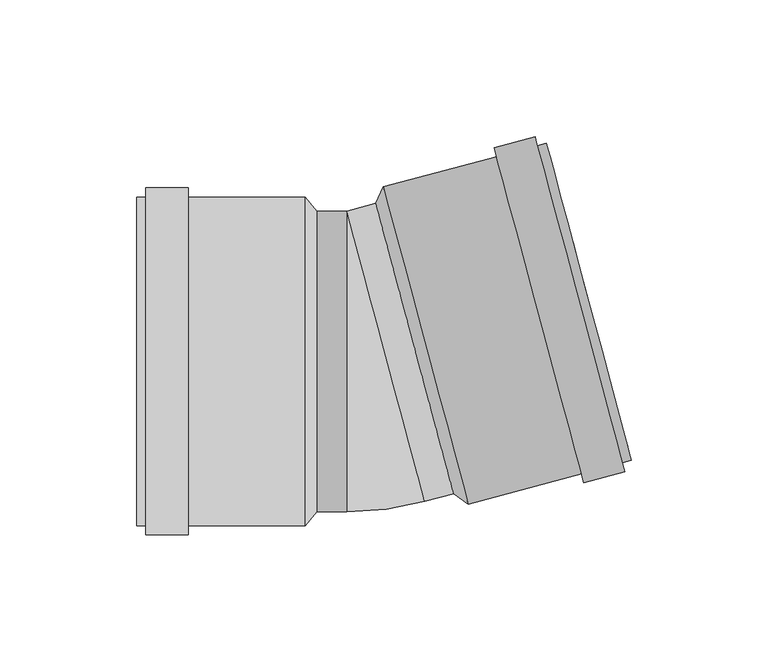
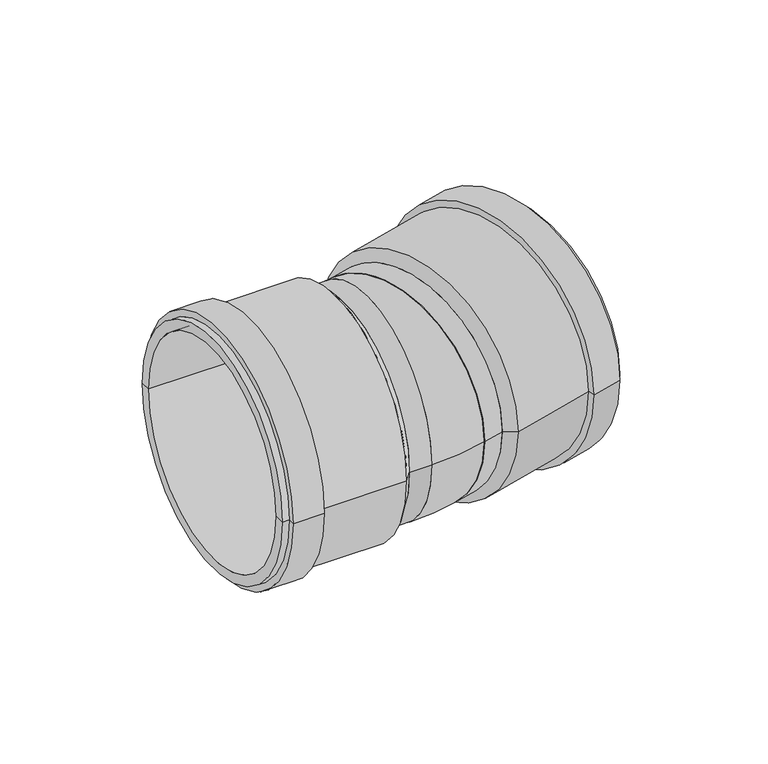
"""IFC4 building model written with IfcOpenShell, lengths in millimetres: pipe fitting geometry, pf_KGBD-2M : pf_KGBD-2M."""

from ifc_helpers import new_model, si_unit, point, frame, origin, origin_2d, place, context, project, spatial, polyline, circle_curve, ellipse_curve, trimmed, segment, composite_curve, outline, extrude, source, transform, mapped, element, save
from ifc_brep_helpers import plane_surface, cylinder_surface, revolved_surface, advanced_brep


def pipe_fitting_e47ee67b(model_context):
    return source(origin(), model_context, "Body", "SolidModel", [
        advanced_brep(
        [(31.8148975, -48.4154138, 0.0), (3.3448026, 57.8364271, 0.0), (6.0817139, 63.8496888, 0.0), (37.1917631, -52.2545955, 0.0), (17.57985, 4.7105066, 0.0), (96.8859792, -36.2595786, 0.0), (65.77593, 79.8447058, 0.0), (67.0959071, 74.918484, 0.0), (95.5660021, -31.3333568, 0.0), (93.6018314, -37.1395633, 0.0), (62.4917822, 78.964721, 0.0), (94.4818161, -40.4237111, 0.0), (61.6117974, 82.2488688, 0.0), (79.5099658, -44.4354063, 0.0), (46.6399471, 78.2371736, 0.0), (78.6299811, -41.1512585, 0.0), (47.5199318, 74.9530258, 0.0), (35.871786, -47.3283738, 0.0), (7.401691, 58.9234671, 0.0), (21.6367385, 5.7975466, 0.0)],
        [
            (0, 1, circle_curve(frame((17.57985, 4.7105066, 0.0), z_axis=(0.9659258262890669, 0.2588190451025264, 0.0), x_axis=(-0.25881904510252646, 0.9659258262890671, 0.0)), 55.0)),
            (1, 2),
            (2, 3, circle_curve(frame((21.6367385, 5.7975466, 0.0), z_axis=(-0.9659258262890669, -0.2588190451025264, 0.0), x_axis=(-0.25881904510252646, 0.9659258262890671, 0.0)), 60.1)),
            (3, 0),
            (1, 0, circle_curve(frame((17.57985, 4.7105066, 0.0), z_axis=(0.9659258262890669, 0.2588190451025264, 0.0), x_axis=(-0.25881904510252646, 0.9659258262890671, 0.0)), 55.0)),
            (3, 2, circle_curve(frame((21.6367385, 5.7975466, 0.0), z_axis=(-0.9659258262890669, -0.2588190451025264, 0.0), x_axis=(-0.25881904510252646, 0.9659258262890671, 0.0)), 60.1)),
            (4, 1),
            (0, 4),
            (5, 6, circle_curve(frame((81.3309546, 21.7925636, 0.0), z_axis=(0.9659258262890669, 0.2588190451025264, 0.0), x_axis=(-0.25881904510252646, 0.9659258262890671, 0.0)), 60.1)),
            (6, 7),
            (7, 8, circle_curve(frame((81.3309546, 21.7925636, 0.0), z_axis=(-0.9659258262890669, -0.2588190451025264, 0.0), x_axis=(-0.25881904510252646, 0.9659258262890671, 0.0)), 55.0)),
            (8, 5),
            (6, 5, circle_curve(frame((81.3309546, 21.7925636, 0.0), z_axis=(0.9659258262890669, 0.2588190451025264, 0.0), x_axis=(-0.25881904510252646, 0.9659258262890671, 0.0)), 60.1)),
            (8, 7, circle_curve(frame((81.3309546, 21.7925636, 0.0), z_axis=(-0.9659258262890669, -0.2588190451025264, 0.0), x_axis=(-0.25881904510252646, 0.9659258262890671, 0.0)), 55.0)),
            (9, 10, circle_curve(frame((78.0468068, 20.9125788, 0.0), z_axis=(0.9659258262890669, 0.2588190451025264, 0.0), x_axis=(-0.25881904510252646, 0.9659258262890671, 0.0)), 60.1)),
            (10, 6),
            (5, 9),
            (10, 9, circle_curve(frame((78.0468068, 20.9125788, 0.0), z_axis=(0.9659258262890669, 0.2588190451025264, 0.0), x_axis=(-0.25881904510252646, 0.9659258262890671, 0.0)), 60.1)),
            (11, 12, circle_curve(frame((78.0468068, 20.9125788, 0.0), z_axis=(0.9659258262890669, 0.2588190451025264, 0.0), x_axis=(-0.25881904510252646, 0.9659258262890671, 0.0)), 63.5)),
            (12, 10),
            (9, 11),
            (12, 11, circle_curve(frame((78.0468068, 20.9125788, 0.0), z_axis=(0.9659258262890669, 0.2588190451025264, 0.0), x_axis=(-0.25881904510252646, 0.9659258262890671, 0.0)), 63.5)),
            (13, 14, circle_curve(frame((63.0749565, 16.9008836, 0.0), z_axis=(0.9659258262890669, 0.2588190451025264, 0.0), x_axis=(-0.25881904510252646, 0.9659258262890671, 0.0)), 63.5)),
            (14, 12),
            (11, 13),
            (14, 13, circle_curve(frame((63.0749565, 16.9008836, 0.0), z_axis=(0.9659258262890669, 0.2588190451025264, 0.0), x_axis=(-0.25881904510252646, 0.9659258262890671, 0.0)), 63.5)),
            (15, 16, circle_curve(frame((63.0749565, 16.9008836, 0.0), z_axis=(0.9659258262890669, 0.2588190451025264, 0.0), x_axis=(-0.25881904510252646, 0.9659258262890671, 0.0)), 60.1)),
            (16, 14),
            (13, 15),
            (16, 15, circle_curve(frame((63.0749565, 16.9008836, 0.0), z_axis=(0.9659258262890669, 0.2588190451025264, 0.0), x_axis=(-0.25881904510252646, 0.9659258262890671, 0.0)), 60.1)),
            (2, 16),
            (15, 3),
            (17, 18, circle_curve(frame((21.6367385, 5.7975466, 0.0), z_axis=(0.9659258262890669, 0.2588190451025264, 0.0), x_axis=(-0.25881904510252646, 0.9659258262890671, 0.0)), 55.0)),
            (18, 19),
            (19, 17),
            (18, 17, circle_curve(frame((21.6367385, 5.7975466, 0.0), z_axis=(0.9659258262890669, 0.2588190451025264, 0.0), x_axis=(-0.25881904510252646, 0.9659258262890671, 0.0)), 55.0)),
            (7, 18),
            (17, 8),
        ],
        [
            revolved_surface(polyline([(6.0817139, 63.8496888, 0.0), (3.3448026, 57.8364271, 0.0)]), (17.57985, 4.7105066, 0.0), (-0.9659258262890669, -0.2588190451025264, 0.0)),
            plane_surface(frame((17.57985, 4.7105066, 0.0), z_axis=(-0.9659258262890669, -0.2588190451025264, 0.0), x_axis=(-0.2588190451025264, 0.9659258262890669, 0.0))),
            plane_surface(frame((81.3309546, 21.7925636, 0.0), z_axis=(0.9659258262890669, 0.2588190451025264, 0.0), x_axis=(-0.2588190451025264, 0.9659258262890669, 0.0))),
            cylinder_surface(frame((17.57985, 4.7105066, 0.0), z_axis=(-0.9659258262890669, -0.2588190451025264, 0.0), x_axis=(-0.25881904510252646, 0.9659258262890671, 0.0)), 60.1),
            plane_surface(frame((78.0468068, 20.9125788, 0.0), z_axis=(0.9659258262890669, 0.2588190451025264, 0.0), x_axis=(-0.2588190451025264, 0.9659258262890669, 0.0))),
            cylinder_surface(frame((17.57985, 4.7105066, 0.0), z_axis=(-0.9659258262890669, -0.2588190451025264, 0.0), x_axis=(-0.25881904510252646, 0.9659258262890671, 0.0)), 63.5),
            plane_surface(frame((63.0749565, 16.9008836, 0.0), z_axis=(-0.9659258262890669, -0.2588190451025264, 0.0), x_axis=(-0.2588190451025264, 0.9659258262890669, 0.0))),
            plane_surface(frame((21.6367385, 5.7975466, 0.0), z_axis=(0.9659258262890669, 0.2588190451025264, 0.0), x_axis=(-0.2588190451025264, 0.9659258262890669, 0.0))),
            revolved_surface(polyline([(7.401691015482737, 58.92346704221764, 0.0), (67.09590715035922, 74.91848404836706, 0.0)]), (17.57985, 4.7105066, 0.0), (-0.9659258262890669, -0.2588190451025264, 0.0)),
        ],
        [
            (0, [[1, 2, 3, 4]]),
            (0, [[5, -4, 6, -2]]),
            (1, [[7, -1, 8]]),
            (1, [[-8, -5, -7]]),
            (2, [[9, 10, 11, 12]]),
            (2, [[13, -12, 14, -10]]),
            (3, [[15, 16, -9, 17]]),
            (3, [[18, -17, -13, -16]]),
            (4, [[19, 20, -15, 21]]),
            (4, [[22, -21, -18, -20]]),
            (5, [[23, 24, -19, 25]]),
            (5, [[26, -25, -22, -24]]),
            (6, [[27, 28, -23, 29]]),
            (6, [[30, -29, -26, -28]]),
            (3, [[-3, 31, -27, 32]]),
            (3, [[-6, -32, -30, -31]]),
            (7, [[33, 34, 35]]),
            (7, [[36, -35, -34]]),
            (8, [[-11, 37, -33, 38]]),
            (8, [[-14, -38, -36, -37]]),
        ],
    ),
        advanced_brep(
        [(-18.2, 55.0, 0.0), (-18.2, -55.0, 0.0), (-22.4, -60.1, 0.0), (-22.4, 60.1, 0.0), (-18.2, 0.0, 0.0), (-84.2, 60.1, 0.0), (-84.2, -60.1, 0.0), (-84.2, -55.0, 0.0), (-84.2, 55.0, 0.0), (-80.8, 60.1, 0.0), (-80.8, -60.1, 0.0), (-80.8, 63.5, 0.0), (-80.8, -63.5, 0.0), (-65.3, 63.5, 0.0), (-65.3, -63.5, 0.0), (-65.3, 60.1, 0.0), (-65.3, -60.1, 0.0), (-22.4, 55.0, 0.0), (-22.4, -55.0, 0.0), (-22.4, 0.0, 0.0)],
        [
            (0, 1, circle_curve(frame((-18.2, 0.0, 0.0), z_axis=(-1.0, 0.0, 0.0), x_axis=(0.0, -1.0, 0.0)), 55.0)),
            (1, 2),
            (2, 3, circle_curve(frame((-22.4, 0.0, 0.0), z_axis=(1.0, 0.0, 0.0), x_axis=(0.0, -1.0, 0.0)), 60.1)),
            (3, 0),
            (1, 0, circle_curve(frame((-18.2, 0.0, 0.0), z_axis=(-1.0, 0.0, 0.0), x_axis=(0.0, -1.0, 0.0)), 55.0)),
            (3, 2, circle_curve(frame((-22.4, 0.0, 0.0), z_axis=(1.0, 0.0, 0.0), x_axis=(0.0, -1.0, 0.0)), 60.1)),
            (4, 1),
            (0, 4),
            (5, 6, circle_curve(frame((-84.2, 0.0, 0.0), z_axis=(-1.0, 0.0, 0.0), x_axis=(0.0, -1.0, 0.0)), 60.1)),
            (6, 7),
            (7, 8, circle_curve(frame((-84.2, 0.0, 0.0), z_axis=(1.0, 0.0, 0.0), x_axis=(0.0, -1.0, 0.0)), 55.0)),
            (8, 5),
            (6, 5, circle_curve(frame((-84.2, 0.0, 0.0), z_axis=(-1.0, 0.0, 0.0), x_axis=(0.0, -1.0, 0.0)), 60.1)),
            (8, 7, circle_curve(frame((-84.2, 0.0, 0.0), z_axis=(1.0, 0.0, 0.0), x_axis=(0.0, -1.0, 0.0)), 55.0)),
            (9, 10, circle_curve(frame((-80.8, 0.0, 0.0), z_axis=(-1.0, 0.0, 0.0), x_axis=(0.0, -1.0, 0.0)), 60.1)),
            (10, 6),
            (5, 9),
            (10, 9, circle_curve(frame((-80.8, 0.0, 0.0), z_axis=(-1.0, 0.0, 0.0), x_axis=(0.0, -1.0, 0.0)), 60.1)),
            (11, 12, circle_curve(frame((-80.8, 0.0, 0.0), z_axis=(-1.0, 0.0, 0.0), x_axis=(0.0, -1.0, 0.0)), 63.5)),
            (12, 10),
            (9, 11),
            (12, 11, circle_curve(frame((-80.8, 0.0, 0.0), z_axis=(-1.0, 0.0, 0.0), x_axis=(0.0, -1.0, 0.0)), 63.5)),
            (13, 14, circle_curve(frame((-65.3, 0.0, 0.0), z_axis=(-1.0, 0.0, 0.0), x_axis=(0.0, -1.0, 0.0)), 63.5)),
            (14, 12),
            (11, 13),
            (14, 13, circle_curve(frame((-65.3, 0.0, 0.0), z_axis=(-1.0, 0.0, 0.0), x_axis=(0.0, -1.0, 0.0)), 63.5)),
            (15, 16, circle_curve(frame((-65.3, 0.0, 0.0), z_axis=(-1.0, 0.0, 0.0), x_axis=(0.0, -1.0, 0.0)), 60.1)),
            (16, 14),
            (13, 15),
            (16, 15, circle_curve(frame((-65.3, 0.0, 0.0), z_axis=(-1.0, 0.0, 0.0), x_axis=(0.0, -1.0, 0.0)), 60.1)),
            (2, 16),
            (15, 3),
            (17, 18, circle_curve(frame((-22.4, 0.0, 0.0), z_axis=(-1.0, 0.0, 0.0), x_axis=(0.0, -1.0, 0.0)), 55.0)),
            (18, 19),
            (19, 17),
            (18, 17, circle_curve(frame((-22.4, 0.0, 0.0), z_axis=(-1.0, 0.0, 0.0), x_axis=(0.0, -1.0, 0.0)), 55.0)),
            (7, 18),
            (17, 8),
        ],
        [
            revolved_surface(polyline([(-22.4, -60.1, 0.0), (-18.2, -55.0, 0.0)]), (-18.2, 0.0, 0.0), (1.0, 0.0, 0.0)),
            plane_surface(frame((-18.2, 0.0, 0.0), z_axis=(1.0, 0.0, 0.0), x_axis=(0.0, -1.0, 0.0))),
            plane_surface(frame((-84.2, 0.0, 0.0), z_axis=(-1.0, 0.0, 0.0), x_axis=(0.0, -1.0, 0.0))),
            cylinder_surface(frame((-18.2, 0.0, 0.0), z_axis=(1.0, 0.0, 0.0), x_axis=(0.0, -1.0, 0.0)), 60.1),
            plane_surface(frame((-80.8, 0.0, 0.0), z_axis=(-1.0, 0.0, 0.0), x_axis=(0.0, -1.0, 0.0))),
            cylinder_surface(frame((-18.2, 0.0, 0.0), z_axis=(1.0, 0.0, 0.0), x_axis=(0.0, -1.0, 0.0)), 63.5),
            plane_surface(frame((-65.3, 0.0, 0.0), z_axis=(1.0, 0.0, 0.0), x_axis=(0.0, -1.0, 0.0))),
            plane_surface(frame((-22.4, 0.0, 0.0), z_axis=(-1.0, 0.0, 0.0), x_axis=(0.0, -1.0, 0.0))),
            revolved_surface(polyline([(-22.4, -55.0, 0.0), (-84.2, -55.0, 0.0)]), (-18.2, 0.0, 0.0), (1.0, 0.0, 0.0)),
        ],
        [
            (0, [[1, 2, 3, 4]]),
            (0, [[5, -4, 6, -2]]),
            (1, [[7, -1, 8]]),
            (1, [[-8, -5, -7]]),
            (2, [[9, 10, 11, 12]]),
            (2, [[13, -12, 14, -10]]),
            (3, [[15, 16, -9, 17]]),
            (3, [[18, -17, -13, -16]]),
            (4, [[19, 20, -15, 21]]),
            (4, [[22, -21, -18, -20]]),
            (5, [[23, 24, -19, 25]]),
            (5, [[26, -25, -22, -24]]),
            (6, [[27, 28, -23, 29]]),
            (6, [[30, -29, -26, -28]]),
            (3, [[-3, 31, -27, 32]]),
            (3, [[-6, -32, -30, -31]]),
            (7, [[33, 34, 35]]),
            (7, [[36, -35, -34]]),
            (8, [[-11, 37, -33, 38]]),
            (8, [[-14, -38, -36, -37]]),
        ],
    ),
        extrude(outline(composite_curve([segment(trimmed(circle_curve(origin_2d(), 55.0), [point((0.0, -55.0))], [point((0.0, 55.0000001))], False, "CARTESIAN"), True, "CONTINUOUS"), segment(trimmed(circle_curve(origin_2d(), 55.0), [point((0.0, 55.0000001))], [point((0.0, -55.0))], False, "CARTESIAN"), True, "CONTINUOUS")], self_intersect=False)), frame((6.9941601, 1.8740796, 0.0), z_axis=(0.9659258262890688, 0.258819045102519, 0.0), x_axis=(0.0, 0.0, 1.0)), (0.0, 0.0, 1.0), 10.9591126),
        extrude(outline(composite_curve([segment(trimmed(circle_curve(origin_2d(), 55.0), [point((-55.0, 0.0))], [point((55.0, 0.0))], False, "CARTESIAN"), True, "CONTINUOUS"), segment(trimmed(circle_curve(origin_2d(), 55.0), [point((55.0, 0.0))], [point((-55.0, 0.0))], False, "CARTESIAN"), True, "CONTINUOUS")], self_intersect=False)), frame((-18.2, 0.0, 0.0), z_axis=(1.0, 0.0, 0.0), x_axis=(0.0, 1.0, 0.0)), (0.0, 0.0, 1.0), 10.9591126),
        advanced_brep(
        [(-7.2408874, -55.0, 0.0), (-7.2408874, 55.0, 0.0), (21.2292076, -51.2518409, 0.0)],
        [
            (0, 1, circle_curve(frame((-7.2408874, 0.0, 0.0), z_axis=(-1.0, 0.0, 0.0), x_axis=(0.0, 1.0, 0.0)), 55.0)),
            (1, 0, circle_curve(frame((-7.2408874, 0.0, 0.0), z_axis=(-1.0, 0.0, 0.0), x_axis=(0.0, 1.0, 0.0)), 55.0)),
            (2, 1, circle_curve(frame((6.9941601, 1.8740796, 0.0), z_axis=(0.9659258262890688, 0.25881904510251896, 0.0), x_axis=(-0.25881904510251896, 0.9659258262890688, 0.0)), 55.0)),
            (1, 2, circle_curve(frame((6.9941601, 1.8740796, 0.0), z_axis=(0.9659258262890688, 0.25881904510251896, 0.0), x_axis=(-0.25881904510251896, 0.9659258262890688, 0.0)), 55.0)),
            (2, 0, circle_curve(frame((-7.2408874, 55.0, 0.0), z_axis=(0.0, 0.0, -1.0), x_axis=(0.0, -1.0, 0.0)), 110.0)),
        ],
        [
            plane_surface(frame((-7.2408874, 55.0, -14.8), z_axis=(-1.0, 0.0, 0.0), x_axis=(0.0, -1.0, 0.0))),
            plane_surface(frame((-7.2408874, 55.0, -14.8), z_axis=(0.9659258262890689, 0.258819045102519, 0.0), x_axis=(0.258819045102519, -0.9659258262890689, 0.0))),
            revolved_surface(trimmed(ellipse_curve(frame((-7.2408874, 0.0, 0.0), z_axis=(1.0, 0.0, 0.0), x_axis=(0.0, 1.0, 0.0)), 55.0, 55.0), [point((-7.2408874, -55.0, 0.0))], [point((-7.2408874, 55.0, 0.0))], True, "CARTESIAN"), (-7.2408874, 55.0, -14.8), (0.0, 0.0, -1.0)),
            revolved_surface(trimmed(ellipse_curve(frame((-7.2408874, 0.0, 0.0), z_axis=(1.0, 0.0, 0.0), x_axis=(0.0, 1.0, 0.0)), 55.0, 55.0), [point((-7.2408874, 55.0, 0.0))], [point((-7.2408874, -55.0, 0.0))], True, "CARTESIAN"), (-7.2408874, 55.0, -14.8), (0.0, 0.0, -1.0)),
        ],
        [
            (0, [[1, 2]]),
            (1, [[3, 4]]),
            (2, [[5, -2, -3]]),
            (3, [[-1, -5, -4]]),
        ],
    ),
    ])


if __name__ == "__main__":
    model = new_model("IFC4")
    model_context = context("Model", 3, world=origin())
    ifc_project = project(units=[si_unit("LENGTHUNIT", "METRE", prefix="MILLI")], contexts=[model_context])
    site = spatial("IfcSite", under=ifc_project)
    building = spatial("IfcBuilding", under=site)
    placement = place(None, origin())
    pipe_fitting_shape = pipe_fitting_e47ee67b(model_context)
    element("IfcPipeFitting", 1, ObjectType="pf_KGBD-2M : pf_KGBD-2M", at=placement, inside=building, context=model_context, shape_type="MappedRepresentation", body=[
        mapped(pipe_fitting_shape, transform((0.0, 0.0, 0.0), x_axis=(1.0, 0.0, 0.0), y_axis=(0.0, 1.0, 0.0), z_axis=(0.0, 0.0, 1.0))),
    ])
    save(model, "model.ifc")
